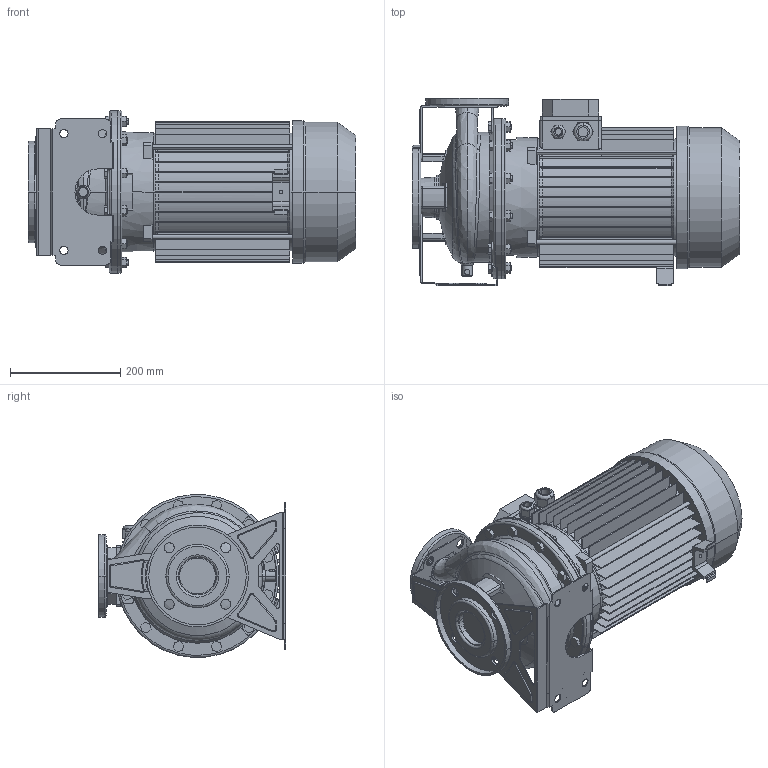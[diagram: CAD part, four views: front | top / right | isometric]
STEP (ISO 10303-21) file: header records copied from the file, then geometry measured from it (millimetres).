
FILE_DESCRIPTION((''),'2;1');
FILE_NAME('3M_40-200_116_E_ASM','2011-07-06T',('Utente'),('"Ebara Pumps Europe +39.444.706811"'),'PRO/ENGINEER BY PARAMETRIC TECHNOLOGY CORPORATION, 2009360','PRO/ENGINEER BY PARAMETRIC TECHNOLOGY CORPORATION, 2009360','');
FILE_SCHEMA(('AUTOMOTIVE_DESIGN { 1 0 10303 214 1 1 1 1 }'));
Length unit declared in the file: millimetre
Products named in the file (11): MEC_132X170_190_IE2; SUPPORTO_3M_230_132; CORPO_40-200; ASP_40-200; FLANGIA_DIN_65; MAND_40-200; FLANGIA_DIN_40; BASE_3M_40-200; CORPO_SALDATO_40-200_ASM; SOSTEGNO_72010; 3M_40-200_116_E_ASM
Assembly tree (10 placements, depth 3):
  3M_40-200_116_E_ASM
    MEC_132X170_190_IE2
    SUPPORTO_3M_230_132
    CORPO_SALDATO_40-200_ASM
      CORPO_40-200
      ASP_40-200
      FLANGIA_DIN_65
      MAND_40-200
      FLANGIA_DIN_40
      BASE_3M_40-200
    SOSTEGNO_72010
Bounding box: 595 x 340 x 295.13 mm (x, y, z)
Volume: 15789574 mm3; surface area: 1780856.2 mm2
Topology: 12 solids, 12 shells, 1124 faces, 2843 edges, 1818 vertices
Faces by surface type: plane 613, cylinder 315, cone 94, torus 62, bspline 34, sphere 6
Entity records: 48746 total; most frequent: CARTESIAN_POINT 9562, DIRECTION 5808, ORIENTED_EDGE 5686, PRESENTATION_STYLE_ASSIGNMENT 2855, STYLED_ITEM 2855, CURVE_STYLE 2843, EDGE_CURVE 2843, AXIS2_PLACEMENT_3D 2097
